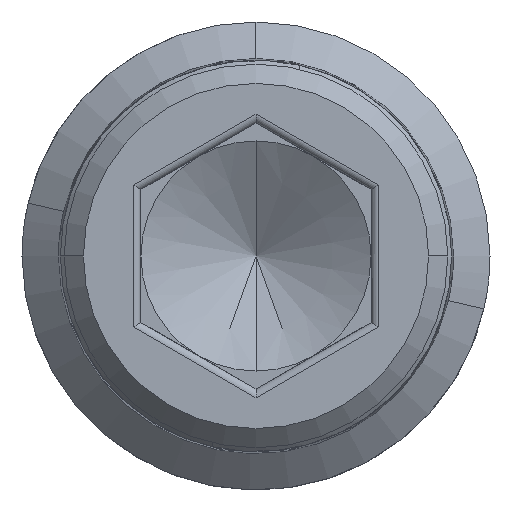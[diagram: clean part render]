
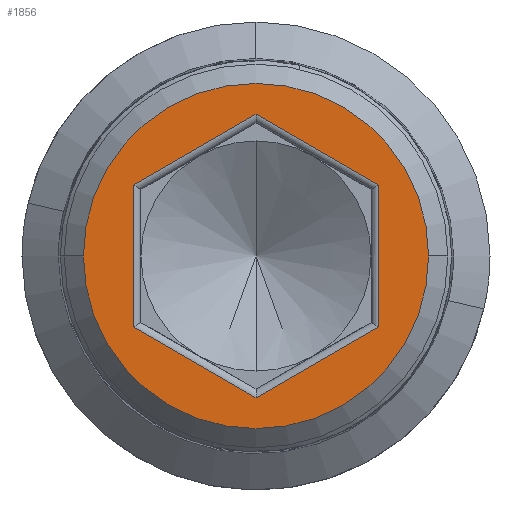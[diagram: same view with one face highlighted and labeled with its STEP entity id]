
A CAD part, front view. The second image highlights one B-rep face of the part: STEP entity #1856.
In plain terms, the highlighted planar face has unit normal (0, -1, 0).
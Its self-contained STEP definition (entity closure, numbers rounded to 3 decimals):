
#33 = CARTESIAN_POINT ( 'NONE',  ( 0., 0., 3.695 ) ) ;
#77 = VECTOR ( 'NONE', #338, 1000. ) ;
#106 = CARTESIAN_POINT ( 'NONE',  ( 2.5, 0., 0. ) ) ;
#119 = VECTOR ( 'NONE', #1703, 1000. ) ;
#300 = ORIENTED_EDGE ( 'NONE', *, *, #1736, .T. ) ;
#302 = DIRECTION ( 'NONE',  ( 0.866, 0., 0.5 ) ) ;
#338 = DIRECTION ( 'NONE',  ( 0.866, 0., -0.5 ) ) ;
#356 = DIRECTION ( 'NONE',  ( 0., 0., -1. ) ) ;
#384 = VECTOR ( 'NONE', #1506, 1000. ) ;
#459 = VERTEX_POINT ( 'NONE', #1056 ) ;
#504 = VERTEX_POINT ( 'NONE', #2507 ) ;
#790 = CIRCLE ( 'NONE', #2116, 4.5 ) ;
#886 = VERTEX_POINT ( 'NONE', #1343 ) ;
#944 = ORIENTED_EDGE ( 'NONE', *, *, #3134, .T. ) ;
#967 = ORIENTED_EDGE ( 'NONE', *, *, #2261, .F. ) ;
#973 = DIRECTION ( 'NONE',  ( 0., 1., 0. ) ) ;
#1045 = CARTESIAN_POINT ( 'NONE',  ( -3.2, 0., 1.848 ) ) ;
#1056 = CARTESIAN_POINT ( 'NONE',  ( -3.2, 0., -1.848 ) ) ;
#1111 = ORIENTED_EDGE ( 'NONE', *, *, #2134, .T. ) ;
#1113 = CARTESIAN_POINT ( 'NONE',  ( -4.5, 0., 0. ) ) ;
#1133 = LINE ( 'NONE', #1737, #2339 ) ;
#1225 = ORIENTED_EDGE ( 'NONE', *, *, #2693, .T. ) ;
#1231 = ORIENTED_EDGE ( 'NONE', *, *, #2291, .T. ) ;
#1236 = FACE_BOUND ( 'NONE', #2665, .T. ) ;
#1237 = VERTEX_POINT ( 'NONE', #2449 ) ;
#1294 = AXIS2_PLACEMENT_3D ( 'NONE', #2416, #973, #2667 ) ;
#1306 = CARTESIAN_POINT ( 'NONE',  ( 0., 0., 0. ) ) ;
#1343 = CARTESIAN_POINT ( 'NONE',  ( 0., 0., -3.695 ) ) ;
#1369 = VERTEX_POINT ( 'NONE', #1113 ) ;
#1428 = CARTESIAN_POINT ( 'NONE',  ( -3.2, 0., 0. ) ) ;
#1502 = LINE ( 'NONE', #1428, #2712 ) ;
#1506 = DIRECTION ( 'NONE',  ( -0.866, 0., 0.5 ) ) ;
#1554 = DIRECTION ( 'NONE',  ( -1., 0., 0. ) ) ;
#1661 = EDGE_CURVE ( 'NONE', #1977, #504, #2939, .T. ) ;
#1703 = DIRECTION ( 'NONE',  ( -0.866, 0., -0.5 ) ) ;
#1736 = EDGE_CURVE ( 'NONE', #459, #2174, #1502, .T. ) ;
#1737 = CARTESIAN_POINT ( 'NONE',  ( -3.2, 0., 1.848 ) ) ;
#1790 = DIRECTION ( 'NONE',  ( 0., -1., 0. ) ) ;
#1856 = ADVANCED_FACE ( 'NONE', ( #1236, #3083 ), #2027, .T. ) ;
#1938 = CARTESIAN_POINT ( 'NONE',  ( 3.2, 0., -1.848 ) ) ;
#1977 = VERTEX_POINT ( 'NONE', #2833 ) ;
#1984 = CARTESIAN_POINT ( 'NONE',  ( 0., 0., -3.695 ) ) ;
#2027 = PLANE ( 'NONE',  #3099 ) ;
#2038 = LINE ( 'NONE', #1938, #119 ) ;
#2116 = AXIS2_PLACEMENT_3D ( 'NONE', #1306, #2996, #1554 ) ;
#2134 = EDGE_CURVE ( 'NONE', #886, #459, #2228, .T. ) ;
#2174 = VERTEX_POINT ( 'NONE', #1045 ) ;
#2228 = LINE ( 'NONE', #1984, #384 ) ;
#2238 = CIRCLE ( 'NONE', #1294, 4.5 ) ;
#2261 = EDGE_CURVE ( 'NONE', #1237, #1369, #790, .T. ) ;
#2275 = VECTOR ( 'NONE', #3101, 1000. ) ;
#2291 = EDGE_CURVE ( 'NONE', #2633, #1977, #2662, .T. ) ;
#2339 = VECTOR ( 'NONE', #302, 1000. ) ;
#2416 = CARTESIAN_POINT ( 'NONE',  ( 0., 0., 0. ) ) ;
#2449 = CARTESIAN_POINT ( 'NONE',  ( 4.5, 0., 0. ) ) ;
#2507 = CARTESIAN_POINT ( 'NONE',  ( 3.2, 0., -1.848 ) ) ;
#2515 = CARTESIAN_POINT ( 'NONE',  ( 0., 0., 3.695 ) ) ;
#2588 = EDGE_CURVE ( 'NONE', #1369, #1237, #2238, .T. ) ;
#2633 = VERTEX_POINT ( 'NONE', #33 ) ;
#2662 = LINE ( 'NONE', #2515, #77 ) ;
#2665 = EDGE_LOOP ( 'NONE', ( #1225, #1231, #2913, #944, #1111, #300 ) ) ;
#2667 = DIRECTION ( 'NONE',  ( -1., 0., 0. ) ) ;
#2693 = EDGE_CURVE ( 'NONE', #2174, #2633, #1133, .T. ) ;
#2712 = VECTOR ( 'NONE', #3110, 1000. ) ;
#2833 = CARTESIAN_POINT ( 'NONE',  ( 3.2, 0., 1.848 ) ) ;
#2845 = ORIENTED_EDGE ( 'NONE', *, *, #2588, .F. ) ;
#2867 = CARTESIAN_POINT ( 'NONE',  ( 3.2, 0., 0. ) ) ;
#2877 = EDGE_LOOP ( 'NONE', ( #2845, #967 ) ) ;
#2913 = ORIENTED_EDGE ( 'NONE', *, *, #1661, .T. ) ;
#2939 = LINE ( 'NONE', #2867, #2275 ) ;
#2996 = DIRECTION ( 'NONE',  ( 0., 1., 0. ) ) ;
#3083 = FACE_OUTER_BOUND ( 'NONE', #2877, .T. ) ;
#3099 = AXIS2_PLACEMENT_3D ( 'NONE', #106, #1790, #356 ) ;
#3101 = DIRECTION ( 'NONE',  ( 0., 0., -1. ) ) ;
#3110 = DIRECTION ( 'NONE',  ( 0., 0., 1. ) ) ;
#3134 = EDGE_CURVE ( 'NONE', #504, #886, #2038, .T. ) ;
